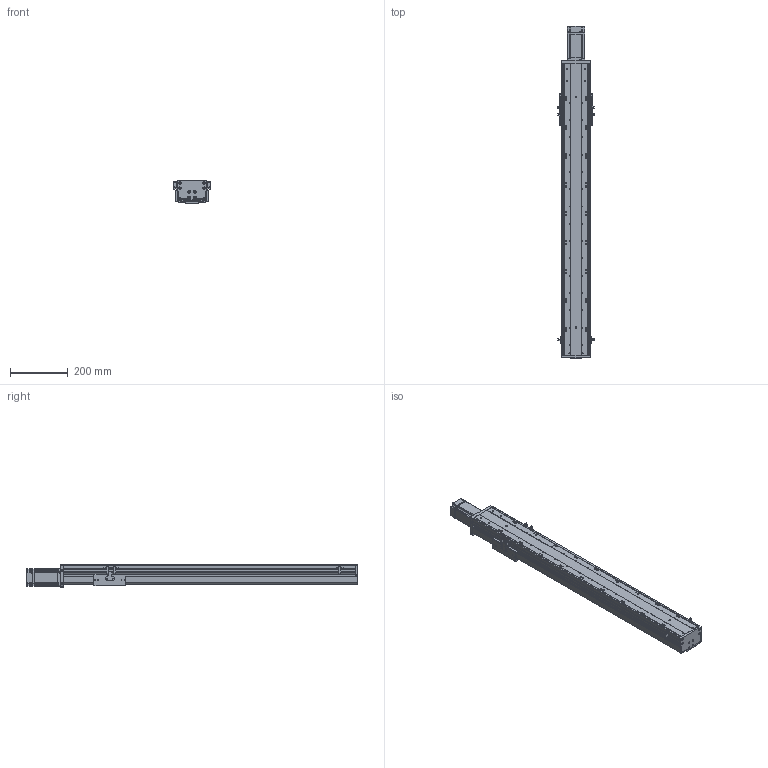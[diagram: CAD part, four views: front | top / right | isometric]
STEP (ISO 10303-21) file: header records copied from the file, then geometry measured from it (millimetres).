
FILE_DESCRIPTION (( 'STEP AP203' ), '1' );
FILE_NAME ('RY100FBS-L1610-300-MK(15双轨）.SLDASM_750.step', '2021-02-22T08:44:28', ( '盈信电脑' ), ( '东莞市道滘镇水果街19号' ), 'SwSTEP 2.0', 'SolidWorks 2012', '' );
FILE_SCHEMA (( 'CONFIG_CONTROL_DESIGN' ));
Length unit declared in the file: millimetre
Products named in the file (12): 覜茼ん672; RY100FBS-L1610-300-MK(15双轨）.SLDASM_750; 15; 侂狟400W侜督萇儂; RY100FB-遵嫖萇覜茼え; RY100FBS-后盖板(15双轨）; RY100FBS-铝滑块（16丝杆）; RY100FBS-300-上盖板(15双轨）_750; RY100FBS-前盖板(15双轨）; 滅袉蝶18-15; 滅袉蝶18-24; RY100FBS-300型材底座(15双轨）_750
Assembly tree (18 placements, depth 3):
  RY100FBS-L1610-300-MK(15双轨）.SLDASM_750
    RY100FBS-300型材底座(15双轨）_750
    滅袉蝶18-24  x2
    滅袉蝶18-15
    RY100FBS-铝滑块（16丝杆）
    RY100FBS-300-上盖板(15双轨）_750
    RY100FBS-前盖板(15双轨）
    RY100FBS-后盖板(15双轨）
    侂狟400W侜督萇儂
      15
    RY100FB-遵嫖萇覜茼え  x2
    覜茼ん672  x6
Bounding box: 127.4 x 1150.5 x 78.75 mm (x, y, z)
Volume: 2649852.9 mm3; surface area: 935629.1 mm2
Topology: 17 solids, 17 shells, 1823 faces, 5209 edges, 3416 vertices
Faces by surface type: plane 877, cylinder 814, cone 114, bspline 18
Entity records: 48706 total; most frequent: CARTESIAN_POINT 10201, DIRECTION 7864, ORIENTED_EDGE 7762, EDGE_CURVE 3881, AXIS2_PLACEMENT_3D 2853, VERTEX_POINT 2564, VECTOR 2158, LINE 2158
